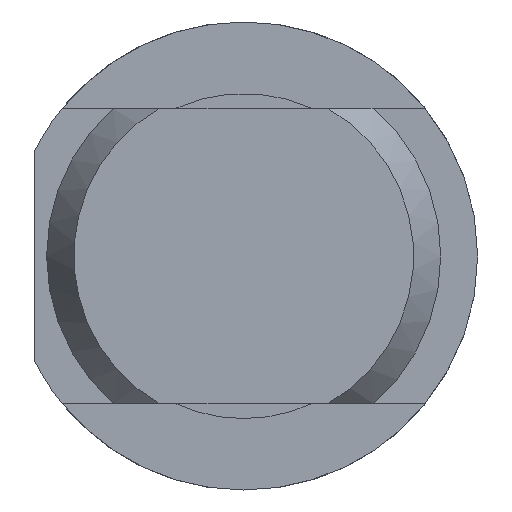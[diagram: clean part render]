
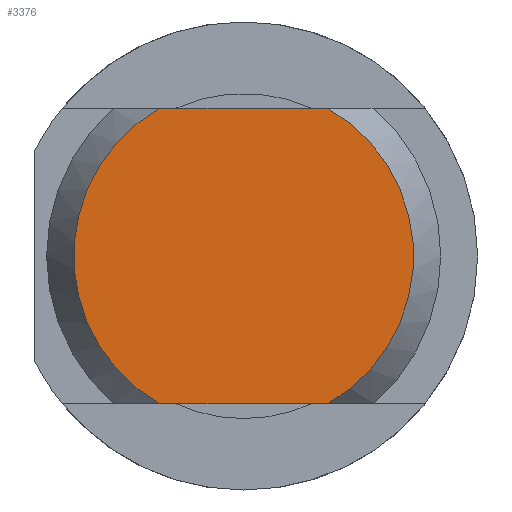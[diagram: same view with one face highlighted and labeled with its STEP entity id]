
A CAD part, left-side view. The second image highlights one B-rep face of the part: STEP entity #3376.
In plain terms, the highlighted planar face has unit normal (-1, 0, 0).
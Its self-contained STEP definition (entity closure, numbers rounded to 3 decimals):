
#5 = CARTESIAN_POINT ( 'NONE',  ( -98.241, 0., -6. ) ) ;
#11 = DIRECTION ( 'NONE',  ( 0., 1., 0. ) ) ;
#66 = CARTESIAN_POINT ( 'NONE',  ( -98.241, 0., 6. ) ) ;
#67 = DIRECTION ( 'NONE',  ( 0., -1., 0. ) ) ;
#151 = CARTESIAN_POINT ( 'NONE',  ( -98.241, 0., 0. ) ) ;
#152 = DIRECTION ( 'NONE',  ( -1., 0., 0. ) ) ;
#153 = DIRECTION ( 'NONE',  ( 0., 0., 1. ) ) ;
#154 = CARTESIAN_POINT ( 'NONE',  ( -98.241, 0., 0. ) ) ;
#155 = DIRECTION ( 'NONE',  ( -1., 0., 0. ) ) ;
#156 = DIRECTION ( 'NONE',  ( 0., 0., 1. ) ) ;
#589 = FACE_OUTER_BOUND ( 'NONE', #3194, .T. ) ;
#605 = EDGE_CURVE ( 'NONE', #3164, #3163, #1427, .T. ) ;
#625 = EDGE_CURVE ( 'NONE', #3149, #3153, #1461, .T. ) ;
#646 = EDGE_CURVE ( 'NONE', #3164, #3153, #1481, .T. ) ;
#647 = EDGE_CURVE ( 'NONE', #3149, #3163, #1488, .T. ) ;
#687 = AXIS2_PLACEMENT_3D ( 'NONE', #151, #152, #153 ) ;
#688 = AXIS2_PLACEMENT_3D ( 'NONE', #154, #155, #156 ) ;
#747 = AXIS2_PLACEMENT_3D ( 'NONE', #1878, #1883, #1884 ) ;
#1427 = LINE ( 'NONE', #5, #1433 ) ;
#1433 = VECTOR ( 'NONE', #11, 1000. ) ;
#1461 = LINE ( 'NONE', #66, #1462 ) ;
#1462 = VECTOR ( 'NONE', #67, 1000. ) ;
#1481 = CIRCLE ( 'NONE', #687, 6.9 ) ;
#1488 = CIRCLE ( 'NONE', #688, 6.9 ) ;
#1878 = CARTESIAN_POINT ( 'NONE',  ( -98.241, 0., 0. ) ) ;
#1880 = PLANE ( 'NONE',  #747 ) ;
#1883 = DIRECTION ( 'NONE',  ( -1., 0., 0. ) ) ;
#1884 = DIRECTION ( 'NONE',  ( 0., 0., 1. ) ) ;
#2342 = CARTESIAN_POINT ( 'NONE',  ( -98.241, 3.407, 6. ) ) ;
#2346 = CARTESIAN_POINT ( 'NONE',  ( -98.241, -3.407, 6. ) ) ;
#2353 = CARTESIAN_POINT ( 'NONE',  ( -98.241, 3.407, -6. ) ) ;
#2354 = CARTESIAN_POINT ( 'NONE',  ( -98.241, -3.407, -6. ) ) ;
#3071 = ORIENTED_EDGE ( 'NONE', *, *, #605, .F. ) ;
#3072 = ORIENTED_EDGE ( 'NONE', *, *, #646, .T. ) ;
#3073 = ORIENTED_EDGE ( 'NONE', *, *, #625, .F. ) ;
#3074 = ORIENTED_EDGE ( 'NONE', *, *, #647, .T. ) ;
#3149 = VERTEX_POINT ( 'NONE', #2342 ) ;
#3153 = VERTEX_POINT ( 'NONE', #2346 ) ;
#3163 = VERTEX_POINT ( 'NONE', #2353 ) ;
#3164 = VERTEX_POINT ( 'NONE', #2354 ) ;
#3194 = EDGE_LOOP ( 'NONE', ( #3071, #3072, #3073, #3074 ) ) ;
#3376 = ADVANCED_FACE ( 'NONE', ( #589 ), #1880, .T. ) ;
